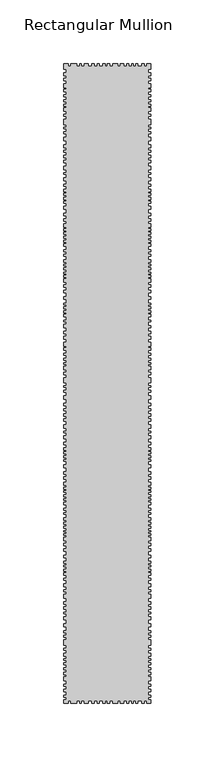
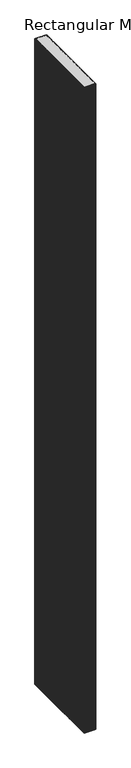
"""IFC4 building model written with IfcOpenShell, lengths in millimetres: member geometry, Rectangular Mullion : DucoSun Cubic Design louvre 500."""

from ifc_helpers import new_model, si_unit, frame, origin, place, context, project, spatial, polyline, outline, extrude, source, transform, mapped, element, save


def rectangular_mullion_9ec098c8(model_context):
    return source(origin(), model_context, "Body", "SweptSolid", [
        extrude(outline(polyline([(-68.0, -497.3782451), (-66.0, -497.3782451), (-66.0, -495.4241521), (-68.0, -495.4241521), (-68.0, -493.6532553), (-66.0, -493.6532553), (-66.0, -490.9460223), (-68.0, -490.9460223), (-68.0, -488.9105087), (-66.0, -488.9105087), (-66.0, -486.7121541), (-68.0, -486.7121541), (-68.0, -485.0023227), (-66.0, -485.0023227), (-66.0, -482.3561551), (-68.0, -482.3561551), (-68.0, -479.3843053), (-66.0, -479.3843053), (-66.0, -477.8917893), (-68.0, -477.8917893), (-68.0, -475.8425117), (-66.0, -475.8425117), (-66.0, -473.8680636), (-68.0, -473.8680636), (-68.0, -472.1582322), (-66.0, -472.1582322), (-66.0, -470.0820083), (-68.0, -470.0820083), (-68.0, -468.3111116), (-66.0, -468.3111116), (-66.0, -466.4995045), (-68.0, -466.4995045), (-68.0, -465.0713495), (-66.0, -465.0713495), (-66.0, -463.4577392), (-68.0, -463.4577392), (-68.0, -461.0328231), (-66.0, -461.0328231), (-66.0, -458.5725067), (-68.0, -458.5725067), (-68.0, -457.0325964), (-66.0, -457.0325964), (-66.0, -454.5014796), (-68.0, -454.5014796), (-68.0, -450.4127524), (-66.0, -450.4127524), (-66.0, -448.4126391), (-68.0, -448.4126391), (-68.0, -446.8373286), (-66.0, -446.8373286), (-66.0, -444.9965163), (-68.0, -444.9965163), (-68.0, -443.3504053), (-66.0, -443.3504053), (-66.0, -440.3767855), (-68.0, -440.3767855), (-68.0, -437.9545244), (-66.0, -437.9545244), (-66.0, -434.5552168), (-68.0, -434.5552168), (-68.0, -432.5197032), (-66.0, -432.5197032), (-66.0, -430.239928), (-68.0, -430.239928), (-68.0, -428.6929377), (-66.0, -428.6929377), (-66.0, -426.4335177), (-68.0, -426.4335177), (-68.0, -424.5608452), (-66.0, -424.5608452), (-66.0, -422.6271073), (-68.0, -422.6271073), (-68.0, -420.5508835), (-66.0, -420.5508835), (-66.0, -418.0064916), (-68.0, -418.0064916), (-68.0, -414.9328661), (-66.0, -414.9328661), (-66.0, -412.9177077), (-68.0, -412.9177077), (-68.0, -411.4114277), (-66.0, -411.4114277), (-66.0, -408.9688114), (-68.0, -408.9688114), (-68.0, -406.7118273), (-66.0, -406.7118273), (-66.0, -403.8852623), (-68.0, -403.8852623), (-68.0, -402.4316003), (-66.0, -402.4316003), (-66.0, -399.9011516), (-68.0, -399.9011516), (-68.0, -397.8552569), (-66.0, -397.8552569), (-66.0, -396.6169522), (-68.0, -396.6169522), (-68.0, -395.0825312), (-66.0, -395.0825312), (-66.0, -393.4673512), (-68.0, -393.4673512), (-68.0, -392.0675286), (-66.0, -392.0675286), (-66.0, -390.5869469), (-68.0, -390.5869469), (-68.0, -389.1602046), (-66.0, -389.1602046), (-66.0, -386.3310055), (-68.0, -386.3310055), (-68.0, -384.2608252), (-66.0, -384.2608252), (-66.0, -381.1919832), (-68.0, -381.1919832), (-68.0, -379.2537672), (-66.0, -379.2537672), (-66.0, -376.9360418), (-68.0, -376.9360418), (-68.0, -375.0004598), (-66.0, -375.0004598), (-66.0, -372.9007258), (-68.0, -372.9007258), (-68.0, -370.1010805), (-66.0, -370.1010805), (-66.0, -368.8089365), (-68.0, -368.8089365), (-68.0, -367.3014351), (-66.0, -367.3014351), (-66.0, -366.0362108), (-68.0, -366.0362108), (-68.0, -365.0401831), (-66.0, -365.0401831), (-66.0, -363.2096458), (-68.0, -363.2096458), (-68.0, -361.6483051), (-66.0, -361.6483051), (-66.0, -360.1408038), (-68.0, -360.1408038), (-68.0, -358.6063828), (-66.0, -358.6063828), (-66.0, -357.0719618), (-68.0, -357.0719618), (-68.0, -355.0799064), (-66.0, -355.0799064), (-66.0, -352.3762692), (-68.0, -352.3762692), (-68.0, -350.8903036), (-66.0, -350.8903036), (-66.0, -349.1257194), (-68.0, -349.1257194), (-68.0, -347.6087962), (-66.0, -347.6087962), (-66.0, -344.8535683), (-68.0, -344.8535683), (-68.0, -342.7484504), (-66.0, -342.7484504), (-66.0, -341.4172729), (-68.0, -341.4172729), (-68.0, -339.9622649), (-66.0, -339.9622649), (-66.0, -338.3524688), (-68.0, -338.3524688), (-68.0, -336.8355456), (-66.0, -336.8355456), (-66.0, -335.1947919), (-68.0, -335.1947919), (-68.0, -333.9255296), (-66.0, -333.9255296), (-66.0, -332.5014792), (-68.0, -332.5014792), (-68.0, -331.1083865), (-66.0, -331.1083865), (-66.0, -329.6843361), (-68.0, -329.6843361), (-68.0, -327.0529387), (-66.0, -327.0529387), (-66.0, -324.9787784), (-68.0, -324.9787784), (-68.0, -323.0284485), (-66.0, -323.0284485), (-66.0, -320.7995001), (-68.0, -320.7995001), (-68.0, -318.8182126), (-66.0, -318.8182126), (-66.0, -315.6914933), (-68.0, -315.6914933), (-68.0, -313.4935025), (-66.0, -313.4935025), (-66.0, -310.954978), (-68.0, -310.954978), (-68.0, -309.4070971), (-66.0, -309.4070971), (-66.0, -308.1378348), (-68.0, -308.1378348), (-68.0, -306.4970812), (-66.0, -306.4970812), (-66.0, -304.8253698), (-68.0, -304.8253698), (-68.0, -303.3394042), (-66.0, -303.3394042), (-66.0, -302.0391843), (-68.0, -302.0391843), (-68.0, -300.0578969), (-66.0, -300.0578969), (-66.0, -297.6741604), (-68.0, -297.6741604), (-68.0, -296.0953219), (-66.0, -296.0953219), (-66.0, -293.3091364), (-68.0, -293.3091364), (-68.0, -291.0182728), (-66.0, -291.0182728), (-66.0, -288.572621), (-68.0, -288.572621), (-68.0, -287.1485707), (-66.0, -287.1485707), (-66.0, -285.0124951), (-68.0, -285.0124951), (-68.0, -282.1643944), (-66.0, -282.1643944), (-66.0, -279.3782089), (-68.0, -279.3782089), (-68.0, -277.427879), (-66.0, -277.427879), (-66.0, -275.4156339), (-68.0, -275.4156339), (-68.0, -273.6510498), (-66.0, -273.6510498), (-66.0, -271.1744404), (-68.0, -271.1744404), (-68.0, -269.6884748), (-66.0, -269.6884748), (-66.0, -267.5523993), (-68.0, -267.5523993), (-68.0, -265.4163237), (-66.0, -265.4163237), (-66.0, -262.1967316), (-68.0, -262.1967316), (-68.0, -259.5343765), (-66.0, -259.5343765), (-66.0, -256.7791486), (-68.0, -256.7791486), (-68.0, -255.0764797), (-66.0, -255.0764797), (-66.0, -252.9404041), (-68.0, -252.9404041), (-68.0, -251.6092266), (-66.0, -251.6092266), (-66.0, -249.5660239), (-68.0, -249.5660239), (-68.0, -245.512038), (-66.0, -245.512038), (-66.0, -243.0030092), (-68.0, -243.0030092), (-68.0, -241.3312979), (-66.0, -241.3312979), (-66.0, -239.0404342), (-68.0, -239.0404342), (-68.0, -236.5638249), (-66.0, -236.5638249), (-66.0, -235.015944), (-68.0, -235.015944), (-68.0, -233.5609361), (-66.0, -233.5609361), (-66.0, -231.5796486), (-68.0, -231.5796486), (-68.0, -230.0627254), (-66.0, -230.0627254), (-66.0, -227.8337769), (-68.0, -227.8337769), (-68.0, -226.1620656), (-66.0, -226.1620656), (-66.0, -224.0259901), (-68.0, -224.0259901), (-68.0, -222.0756602), (-66.0, -222.0756602), (-66.0, -220.6516099), (-68.0, -220.6516099), (-68.0, -217.7415939), (-66.0, -217.7415939), (-66.0, -215.2030693), (-68.0, -215.2030693), (-68.0, -213.1908242), (-66.0, -213.1908242), (-66.0, -211.2404944), (-68.0, -211.2404944), (-68.0, -209.1353764), (-66.0, -209.1353764), (-66.0, -206.2563181), (-68.0, -206.2563181), (-68.0, -203.7186411), (-66.0, -203.7186411), (-66.0, -201.7889994), (-68.0, -201.7889994), (-68.0, -200.3353374), (-66.0, -200.3353374), (-66.0, -197.8048887), (-68.0, -197.8048887), (-68.0, -195.758994), (-66.0, -195.758994), (-66.0, -194.5206893), (-68.0, -194.5206893), (-68.0, -192.9862683), (-66.0, -192.9862683), (-66.0, -191.3710883), (-68.0, -191.3710883), (-68.0, -189.9712657), (-66.0, -189.9712657), (-66.0, -188.490684), (-68.0, -188.490684), (-68.0, -187.0639417), (-66.0, -187.0639417), (-66.0, -184.2347426), (-68.0, -184.2347426), (-68.0, -182.1645623), (-66.0, -182.1645623), (-66.0, -179.0957203), (-68.0, -179.0957203), (-68.0, -177.1575043), (-66.0, -177.1575043), (-66.0, -174.8397789), (-68.0, -174.8397789), (-68.0, -172.9041969), (-66.0, -172.9041969), (-66.0, -170.8044629), (-68.0, -170.8044629), (-68.0, -168.0048176), (-66.0, -168.0048176), (-66.0, -166.7126736), (-68.0, -166.7126736), (-68.0, -165.2051722), (-66.0, -165.2051722), (-66.0, -163.9399479), (-68.0, -163.9399479), (-68.0, -162.9439202), (-66.0, -162.9439202), (-66.0, -161.1133829), (-68.0, -161.1133829), (-68.0, -159.5520422), (-66.0, -159.5520422), (-66.0, -158.0445409), (-68.0, -158.0445409), (-68.0, -156.5101199), (-66.0, -156.5101199), (-66.0, -154.9756989), (-68.0, -154.9756989), (-68.0, -152.9836435), (-66.0, -152.9836435), (-66.0, -150.2800063), (-68.0, -150.2800063), (-68.0, -148.7940407), (-66.0, -148.7940407), (-66.0, -147.0294565), (-68.0, -147.0294565), (-68.0, -145.5125333), (-66.0, -145.5125333), (-66.0, -142.7573054), (-68.0, -142.7573054), (-68.0, -140.6521875), (-66.0, -140.6521875), (-66.0, -139.32101), (-68.0, -139.32101), (-68.0, -137.866002), (-66.0, -137.866002), (-66.0, -136.2562059), (-68.0, -136.2562059), (-68.0, -134.7392827), (-66.0, -134.7392827), (-66.0, -133.098529), (-68.0, -133.098529), (-68.0, -131.8292667), (-66.0, -131.8292667), (-66.0, -130.4052163), (-68.0, -130.4052163), (-68.0, -129.0121236), (-66.0, -129.0121236), (-66.0, -127.5880732), (-68.0, -127.5880732), (-68.0, -124.9566758), (-66.0, -124.9566758), (-66.0, -122.8825155), (-68.0, -122.8825155), (-68.0, -120.9321856), (-66.0, -120.9321856), (-66.0, -118.7032372), (-68.0, -118.7032372), (-68.0, -116.7219497), (-66.0, -116.7219497), (-66.0, -113.5952304), (-68.0, -113.5952304), (-68.0, -111.3972396), (-66.0, -111.3972396), (-66.0, -108.8587151), (-68.0, -108.8587151), (-68.0, -107.3108342), (-66.0, -107.3108342), (-66.0, -106.0415719), (-68.0, -106.0415719), (-68.0, -104.4008183), (-66.0, -104.4008183), (-66.0, -102.7291069), (-68.0, -102.7291069), (-68.0, -101.2431413), (-66.0, -101.2431413), (-66.0, -99.9429214), (-68.0, -99.9429214), (-68.0, -97.961634), (-66.0, -97.961634), (-66.0, -95.5778975), (-68.0, -95.5778975), (-68.0, -93.999059), (-66.0, -93.999059), (-66.0, -91.2128735), (-68.0, -91.2128735), (-68.0, -88.9220099), (-66.0, -88.9220099), (-66.0, -86.4763581), (-68.0, -86.4763581), (-68.0, -85.0523078), (-66.0, -85.0523078), (-66.0, -82.9162322), (-68.0, -82.9162322), (-68.0, -80.0681315), (-66.0, -80.0681315), (-66.0, -77.281946), (-68.0, -77.281946), (-68.0, -75.3316161), (-66.0, -75.3316161), (-66.0, -73.319371), (-68.0, -73.319371), (-68.0, -71.5547869), (-66.0, -71.5547869), (-66.0, -69.0781775), (-68.0, -69.0781775), (-68.0, -67.5922119), (-66.0, -67.5922119), (-66.0, -65.4561364), (-68.0, -65.4561364), (-68.0, -63.3200608), (-66.0, -63.3200608), (-66.0, -60.1004687), (-68.0, -60.1004687), (-68.0, -57.4381136), (-66.0, -57.4381136), (-66.0, -54.6828857), (-68.0, -54.6828857), (-68.0, -52.9802168), (-66.0, -52.9802168), (-66.0, -50.8441412), (-68.0, -50.8441412), (-68.0, -49.5129637), (-66.0, -49.5129637), (-66.0, -47.469761), (-68.0, -47.469761), (-68.0, -43.4157751), (-66.0, -43.4157751), (-66.0, -40.9067463), (-68.0, -40.9067463), (-68.0, -39.235035), (-66.0, -39.235035), (-66.0, -36.9441713), (-68.0, -36.9441713), (-68.0, -34.467562), (-66.0, -34.467562), (-66.0, -32.9196811), (-68.0, -32.9196811), (-68.0, -31.4646731), (-66.0, -31.4646731), (-66.0, -29.4833857), (-68.0, -29.4833857), (-68.0, -27.9664625), (-66.0, -27.9664625), (-66.0, -25.737514), (-68.0, -25.737514), (-68.0, -24.0658027), (-66.0, -24.0658027), (-66.0, -21.9297272), (-68.0, -21.9297272), (-68.0, -19.9793973), (-66.0, -19.9793973), (-66.0, -18.555347), (-68.0, -18.555347), (-68.0, -15.645331), (-66.0, -15.645331), (-66.0, -13.1068064), (-68.0, -13.1068064), (-68.0, -11.0945613), (-66.0, -11.0945613), (-66.0, -9.1442315), (-68.0, -9.1442315), (-68.0, -7.0391135), (-66.0, -7.0391135), (-66.0, -4.0), (-68.0, -4.0), (-68.0, 0.0), (-64.4544414, 0.0), (-64.4544414, -2.0), (-62.627942, -2.0), (-62.627942, 0.0), (-57.9842994, 0.0), (-57.9842994, -2.0), (-55.8172663, -2.0), (-55.8172663, 0.0), (-54.3003431, 0.0), (-54.3003431, -2.0), (-51.9475642, -2.0), (-51.9475642, 0.0), (-48.8827601, 0.0), (-48.8827601, -2.0), (-46.0965746, -2.0), (-46.0965746, 0.0), (-44.3939057, 0.0), (-44.3939057, -2.0), (-42.0101692, -2.0), (-42.0101692, 0.0), (-40.5242036, 0.0), (-40.5242036, -2.0), (-37.4884678, -2.0), (-37.4884678, 0.0), (-35.7094289, 0.0), (-35.7094289, -2.0), (-34.0, -2.0), (-34.0, 0.0), (-32.1513512, 0.0), (-32.1513512, -2.0), (-29.7871022, -2.0), (-29.7871022, 0.0), (-26.0183489, 0.0), (-26.0183489, -2.0), (-23.9584092, -2.0), (-23.9584092, 0.0), (-21.2664425, 0.0), (-21.2664425, -2.0), (-18.9958271, -2.0), (-18.9958271, 0.0), (-17.1231547, 0.0), (-17.1231547, -2.0), (-15.0632149, -2.0), (-15.0632149, 0.0), (-13.7289358, 0.0), (-13.7289358, -2.0), (-11.6924045, -2.0), (-11.6924045, 0.0), (-10.1006329, 0.0), (-10.1006329, -2.0), (-7.0341317, -2.0), (-7.0341317, 0.0), (-5.0678256, 0.0), (-5.0678256, -2.0), (-3.1249279, -2.0), (-3.1249279, 0.0), (0.0, 0.0), (0.0, -4.0), (-2.0, -4.0), (-2.0, -7.0391135), (0.0, -7.0391135), (0.0, -9.1442315), (-2.0, -9.1442315), (-2.0, -11.0945613), (0.0, -11.0945613), (0.0, -13.1068064), (-2.0, -13.1068064), (-2.0, -15.645331), (0.0, -15.645331), (0.0, -18.555347), (-2.0, -18.555347), (-2.0, -19.9793973), (0.0, -19.9793973), (0.0, -21.9297272), (-2.0, -21.9297272), (-2.0, -24.0658027), (0.0, -24.0658027), (0.0, -25.737514), (-2.0, -25.737514), (-2.0, -27.9664625), (0.0, -27.9664625), (0.0, -29.4833857), (-2.0, -29.4833857), (-2.0, -31.4646731), (0.0, -31.4646731), (0.0, -32.9196811), (-2.0, -32.9196811), (-2.0, -34.467562), (0.0, -34.467562), (0.0, -36.9441713), (-2.0, -36.9441713), (-2.0, -39.235035), (0.0, -39.235035), (0.0, -40.9067463), (-2.0, -40.9067463), (-2.0, -43.4157751), (0.0, -43.4157751), (0.0, -47.469761), (-2.0, -47.469761), (-2.0, -49.5129637), (0.0, -49.5129637), (0.0, -50.8441412), (-2.0, -50.8441412), (-2.0, -52.9802168), (0.0, -52.9802168), (0.0, -54.6828857), (-2.0, -54.6828857), (-2.0, -57.4381136), (0.0, -57.4381136), (0.0, -60.1004687), (-2.0, -60.1004687), (-2.0, -63.3200608), (0.0, -63.3200608), (0.0, -65.4561364), (-2.0, -65.4561364), (-2.0, -67.5922119), (0.0, -67.5922119), (0.0, -69.0781775), (-2.0, -69.0781775), (-2.0, -71.5547869), (0.0, -71.5547869), (0.0, -73.319371), (-2.0, -73.319371), (-2.0, -75.3316161), (0.0, -75.3316161), (0.0, -77.281946), (-2.0, -77.281946), (-2.0, -80.0681315), (0.0, -80.0681315), (0.0, -82.9162322), (-2.0, -82.9162322), (-2.0, -85.0523078), (0.0, -85.0523078), (0.0, -86.4763581), (-2.0, -86.4763581), (-2.0, -88.9220099), (0.0, -88.9220099), (0.0, -91.2128735), (-2.0, -91.2128735), (-2.0, -93.999059), (0.0, -93.999059), (0.0, -95.5778975), (-2.0, -95.5778975), (-2.0, -97.961634), (0.0, -97.961634), (0.0, -99.9429214), (-2.0, -99.9429214), (-2.0, -101.2431413), (0.0, -101.2431413), (0.0, -102.7291069), (-2.0, -102.7291069), (-2.0, -104.4008183), (0.0, -104.4008183), (0.0, -106.0415719), (-2.0, -106.0415719), (-2.0, -107.3108342), (0.0, -107.3108342), (0.0, -108.8587151), (-2.0, -108.8587151), (-2.0, -111.3972396), (0.0, -111.3972396), (0.0, -113.5952304), (-2.0, -113.5952304), (-2.0, -116.7219497), (0.0, -116.7219497), (0.0, -118.7032372), (-2.0, -118.7032372), (-2.0, -120.9321856), (0.0, -120.9321856), (0.0, -122.8825155), (-2.0, -122.8825155), (-2.0, -124.9566758), (0.0, -124.9566758), (0.0, -127.5880732), (-2.0, -127.5880732), (-2.0, -129.0121236), (0.0, -129.0121236), (0.0, -130.4052163), (-2.0, -130.4052163), (-2.0, -131.8292667), (0.0, -131.8292667), (0.0, -133.098529), (-2.0, -133.098529), (-2.0, -134.7392827), (0.0, -134.7392827), (0.0, -136.2562059), (-2.0, -136.2562059), (-2.0, -137.866002), (0.0, -137.866002), (0.0, -139.32101), (-2.0, -139.32101), (-2.0, -140.6521875), (0.0, -140.6521875), (0.0, -142.7573054), (-2.0, -142.7573054), (-2.0, -145.5125333), (0.0, -145.5125333), (0.0, -147.0294565), (-2.0, -147.0294565), (-2.0, -148.7940407), (0.0, -148.7940407), (0.0, -150.2800063), (-2.0, -150.2800063), (-2.0, -152.9836435), (0.0, -152.9836435), (0.0, -154.9756989), (-2.0, -154.9756989), (-2.0, -156.5101199), (0.0, -156.5101199), (0.0, -158.0445409), (-2.0, -158.0445409), (-2.0, -159.5520422), (0.0, -159.5520422), (0.0, -161.1133829), (-2.0, -161.1133829), (-2.0, -162.9439202), (0.0, -162.9439202), (0.0, -163.9399479), (-2.0, -163.9399479), (-2.0, -165.2051722), (0.0, -165.2051722), (0.0, -166.7126736), (-2.0, -166.7126736), (-2.0, -168.0048176), (0.0, -168.0048176), (0.0, -170.8044629), (-2.0, -170.8044629), (-2.0, -172.9041969), (0.0, -172.9041969), (0.0, -174.8397789), (-2.0, -174.8397789), (-2.0, -177.1575043), (0.0, -177.1575043), (0.0, -179.0957203), (-2.0, -179.0957203), (-2.0, -182.1645623), (0.0, -182.1645623), (0.0, -184.2347426), (-2.0, -184.2347426), (-2.0, -187.0639417), (0.0, -187.0639417), (0.0, -188.490684), (-2.0, -188.490684), (-2.0, -189.9712657), (0.0, -189.9712657), (0.0, -191.3710883), (-2.0, -191.3710883), (-2.0, -192.9862683), (0.0, -192.9862683), (0.0, -194.5206893), (-2.0, -194.5206893), (-2.0, -195.758994), (0.0, -195.758994), (0.0, -197.8048887), (-2.0, -197.8048887), (-2.0, -200.3353374), (0.0, -200.3353374), (0.0, -201.7889994), (-2.0, -201.7889994), (-2.0, -204.6155644), (0.0, -204.6155644), (0.0, -206.2563181), (-2.0, -206.2563181), (-2.0, -209.1353764), (0.0, -209.1353764), (0.0, -211.2404944), (-2.0, -211.2404944), (-2.0, -213.1908242), (0.0, -213.1908242), (0.0, -215.2030693), (-2.0, -215.2030693), (-2.0, -217.7415939), (0.0, -217.7415939), (0.0, -220.6516099), (-2.0, -220.6516099), (-2.0, -222.0756602), (0.0, -222.0756602), (0.0, -224.0259901), (-2.0, -224.0259901), (-2.0, -226.1620656), (0.0, -226.1620656), (0.0, -227.8337769), (-2.0, -227.8337769), (-2.0, -230.0627254), (0.0, -230.0627254), (0.0, -231.5796486), (-2.0, -231.5796486), (-2.0, -233.5609361), (0.0, -233.5609361), (0.0, -235.015944), (-2.0, -235.015944), (-2.0, -236.5638249), (0.0, -236.5638249), (0.0, -239.0404342), (-2.0, -239.0404342), (-2.0, -241.3312979), (0.0, -241.3312979), (0.0, -243.0030092), (-2.0, -243.0030092), (-2.0, -245.512038), (0.0, -245.512038), (0.0, -249.5660239), (-2.0, -249.5660239), (-2.0, -251.6092266), (0.0, -251.6092266), (0.0, -252.9404041), (-2.0, -252.9404041), (-2.0, -255.0764797), (0.0, -255.0764797), (0.0, -256.7791486), (-2.0, -256.7791486), (-2.0, -259.5343765), (0.0, -259.5343765), (0.0, -262.1967316), (-2.0, -262.1967316), (-2.0, -265.4163237), (0.0, -265.4163237), (0.0, -267.5523993), (-2.0, -267.5523993), (-2.0, -269.6884748), (0.0, -269.6884748), (0.0, -271.1744404), (-2.0, -271.1744404), (-2.0, -273.6510498), (0.0, -273.6510498), (0.0, -275.4156339), (-2.0, -275.4156339), (-2.0, -277.427879), (0.0, -277.427879), (0.0, -279.3782089), (-2.0, -279.3782089), (-2.0, -282.1643944), (0.0, -282.1643944), (0.0, -285.0124951), (-2.0, -285.0124951), (-2.0, -287.1485707), (0.0, -287.1485707), (0.0, -288.572621), (-2.0, -288.572621), (-2.0, -291.0182728), (0.0, -291.0182728), (0.0, -293.3091364), (-2.0, -293.3091364), (-2.0, -296.0953219), (0.0, -296.0953219), (0.0, -297.6741604), (-2.0, -297.6741604), (-2.0, -300.0578969), (0.0, -300.0578969), (0.0, -302.0391843), (-2.0, -302.0391843), (-2.0, -303.3394042), (0.0, -303.3394042), (0.0, -304.8253698), (-2.0, -304.8253698), (-2.0, -306.4970812), (0.0, -306.4970812), (0.0, -308.1378348), (-2.0, -308.1378348), (-2.0, -309.4070971), (0.0, -309.4070971), (0.0, -310.954978), (-2.0, -310.954978), (-2.0, -313.4935025), (0.0, -313.4935025), (0.0, -315.6914933), (-2.0, -315.6914933), (-2.0, -318.8182126), (0.0, -318.8182126), (0.0, -320.7995001), (-2.0, -320.7995001), (-2.0, -323.0284485), (0.0, -323.0284485), (0.0, -324.9787784), (-2.0, -324.9787784), (-2.0, -327.0529387), (0.0, -327.0529387), (0.0, -329.6843361), (-2.0, -329.6843361), (-2.0, -331.1083865), (0.0, -331.1083865), (0.0, -332.5014792), (-2.0, -332.5014792), (-2.0, -333.9255296), (0.0, -333.9255296), (0.0, -335.1947919), (-2.0, -335.1947919), (-2.0, -336.8355456), (0.0, -336.8355456), (0.0, -338.3524688), (-2.0, -338.3524688), (-2.0, -339.9622649), (0.0, -339.9622649), (0.0, -341.4172729), (-2.0, -341.4172729), (-2.0, -342.7484504), (0.0, -342.7484504), (0.0, -344.8535683), (-2.0, -344.8535683), (-2.0, -347.6087962), (0.0, -347.6087962), (0.0, -349.1257194), (-2.0, -349.1257194), (-2.0, -350.8903036), (0.0, -350.8903036), (0.0, -352.3762692), (-2.0, -352.3762692), (-2.0, -355.0799064), (0.0, -355.0799064), (0.0, -357.0719618), (-2.0, -357.0719618), (-2.0, -358.6063828), (0.0, -358.6063828), (0.0, -360.1408038), (-2.0, -360.1408038), (-2.0, -361.6483051), (0.0, -361.6483051), (0.0, -363.2096458), (-2.0, -363.2096458), (-2.0, -365.0401831), (0.0, -365.0401831), (0.0, -366.0362108), (-2.0, -366.0362108), (-2.0, -367.3014351), (0.0, -367.3014351), (0.0, -368.8089365), (-2.0, -368.8089365), (-2.0, -370.1010805), (0.0, -370.1010805), (0.0, -372.9007258), (-2.0, -372.9007258), (-2.0, -375.0004598), (0.0, -375.0004598), (0.0, -376.9360418), (-2.0, -376.9360418), (-2.0, -379.2537672), (0.0, -379.2537672), (0.0, -381.1919832), (-2.0, -381.1919832), (-2.0, -384.2608252), (0.0, -384.2608252), (0.0, -386.3310055), (-2.0, -386.3310055), (-2.0, -389.1602046), (0.0, -389.1602046), (0.0, -390.5869469), (-2.0, -390.5869469), (-2.0, -392.0675286), (0.0, -392.0675286), (0.0, -393.4673512), (-2.0, -393.4673512), (-2.0, -395.0825312), (0.0, -395.0825312), (0.0, -396.6169522), (-2.0, -396.6169522), (-2.0, -397.8552569), (0.0, -397.8552569), (0.0, -399.9011516), (-2.0, -399.9011516), (-2.0, -402.4316003), (0.0, -402.4316003), (0.0, -403.8852623), (-2.0, -403.8852623), (-2.0, -406.7118273), (0.0, -406.7118273), (0.0, -408.9688114), (-2.0, -408.9688114), (-2.0, -411.4114277), (0.0, -411.4114277), (0.0, -412.9177077), (-2.0, -412.9177077), (-2.0, -414.9328661), (0.0, -414.9328661), (0.0, -418.0064916), (-2.0, -418.0064916), (-2.0, -420.5508835), (0.0, -420.5508835), (0.0, -422.6271073), (-2.0, -422.6271073), (-2.0, -424.5608452), (0.0, -424.5608452), (0.0, -426.4335177), (-2.0, -426.4335177), (-2.0, -428.6929377), (0.0, -428.6929377), (0.0, -430.239928), (-2.0, -430.239928), (-2.0, -432.5197032), (0.0, -432.5197032), (0.0, -434.5552168), (-2.0, -434.5552168), (-2.0, -437.9545244), (0.0, -437.9545244), (0.0, -440.3767855), (-2.0, -440.3767855), (-2.0, -443.3504053), (0.0, -443.3504053), (0.0, -444.9965163), (-2.0, -444.9965163), (-2.0, -446.8373286), (0.0, -446.8373286), (0.0, -448.4126391), (-2.0, -448.4126391), (-2.0, -450.4127524), (0.0, -450.4127524), (0.0, -454.5014796), (-2.0, -454.5014796), (-2.0, -457.0325964), (0.0, -457.0325964), (0.0, -458.5725067), (-2.0, -458.5725067), (-2.0, -461.0328231), (0.0, -461.0328231), (0.0, -463.4577392), (-2.0, -463.4577392), (-2.0, -465.0713495), (0.0, -465.0713495), (0.0, -466.4995045), (-2.0, -466.4995045), (-2.0, -468.3111116), (0.0, -468.3111116), (0.0, -470.0820083), (-2.0, -470.0820083), (-2.0, -472.1582322), (0.0, -472.1582322), (0.0, -473.8680636), (-2.0, -473.8680636), (-2.0, -475.8425117), (0.0, -475.8425117), (0.0, -477.8917893), (-2.0, -477.8917893), (-2.0, -479.3843053), (0.0, -479.3843053), (0.0, -482.3561551), (-2.0, -482.3561551), (-2.0, -485.0023227), (0.0, -485.0023227), (0.0, -486.7121541), (-2.0, -486.7121541), (-2.0, -488.9105087), (0.0, -488.9105087), (0.0, -490.9460223), (-2.0, -490.9460223), (-2.0, -493.6532553), (0.0, -493.6532553), (0.0, -495.4241521), (-2.0, -495.4241521), (-2.0, -497.3782451), (0.0, -497.3782451), (0.0, -500.0), (-3.1249279, -500.0), (-3.1249279, -498.0), (-5.0678256, -498.0), (-5.0678256, -500.0), (-7.0341317, -500.0), (-7.0341317, -498.0), (-10.1006329, -498.0), (-10.1006329, -500.0), (-11.6924045, -500.0), (-11.6924045, -498.0), (-13.7289358, -498.0), (-13.7289358, -500.0), (-15.0632149, -500.0), (-15.0632149, -498.0), (-17.1231547, -498.0), (-17.1231547, -500.0), (-18.9958271, -500.0), (-18.9958271, -498.0), (-21.2664425, -498.0), (-21.2664425, -500.0), (-23.9584092, -500.0), (-23.9584092, -498.0), (-26.0183489, -498.0), (-26.0183489, -500.0), (-29.7871022, -500.0), (-29.7871022, -498.0), (-32.1513512, -498.0), (-32.1513512, -500.0), (-34.0, -500.0), (-34.0, -498.0), (-35.7094289, -498.0), (-35.7094289, -500.0), (-37.4884678, -500.0), (-37.4884678, -498.0), (-40.5242036, -498.0), (-40.5242036, -500.0), (-42.0101692, -500.0), (-42.0101692, -498.0), (-44.3939057, -498.0), (-44.3939057, -500.0), (-46.0965746, -500.0), (-46.0965746, -498.0), (-48.8827601, -498.0), (-48.8827601, -500.0), (-51.9475642, -500.0), (-51.9475642, -498.0), (-54.3003431, -498.0), (-54.3003431, -500.0), (-55.8172663, -500.0), (-55.8172663, -498.0), (-57.9842994, -498.0), (-57.9842994, -500.0), (-62.627942, -500.0), (-62.627942, -498.0), (-64.4544414, -498.0), (-64.4544414, -500.0), (-68.0, -500.0), (-68.0, -497.3782451)])), frame((0.0, 0.0, -4000.0), z_axis=(0.0, 0.0, 1.0), x_axis=(1.0, 0.0, 0.0)), (0.0, 0.0, 1.0), 4000.0),
    ])


if __name__ == "__main__":
    model = new_model("IFC4")
    model_context = context("Model", 3, world=origin())
    ifc_project = project(units=[si_unit("LENGTHUNIT", "METRE", prefix="MILLI")], contexts=[model_context])
    site = spatial("IfcSite", under=ifc_project)
    building = spatial("IfcBuilding", under=site)
    placement = place(None, origin())
    rectangular_mullion_shape = rectangular_mullion_9ec098c8(model_context)
    element("IfcMember", 1, ObjectType="Rectangular Mullion : DucoSun Cubic Design louvre 500", at=placement, inside=building, context=model_context, shape_type="MappedRepresentation", body=[
        mapped(rectangular_mullion_shape, transform((0.0, 0.0, 0.0), x_axis=(1.0, 0.0, 0.0), y_axis=(0.0, 1.0, 0.0), z_axis=(0.0, 0.0, 1.0))),
    ])
    save(model, "model.ifc")
